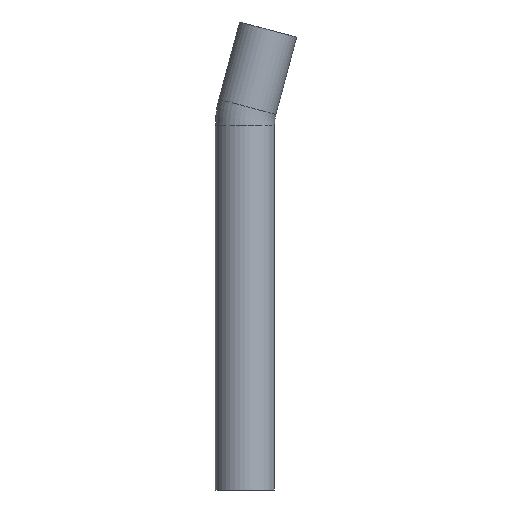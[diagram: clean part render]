
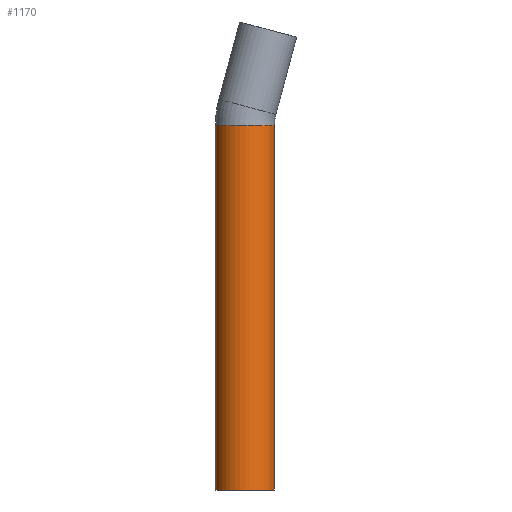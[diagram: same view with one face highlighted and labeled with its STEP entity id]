
A CAD part, front view. The second image highlights one B-rep face of the part: STEP entity #1170.
In plain terms, the highlighted cylindrical face has radius 17.5 mm (diameter 35 mm), a partial arc.
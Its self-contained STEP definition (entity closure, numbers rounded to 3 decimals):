
#210=CARTESIAN_POINT('',(50.717,48.566,0.));
#220=DIRECTION('',(0.,0.,1.));
#230=DIRECTION('',(1.,0.,0.));
#240=AXIS2_PLACEMENT_3D('',#210,#220,#230);
#250=CIRCLE('',#240,17.5);
#260=CARTESIAN_POINT('',(68.217,48.566,0.));
#270=VERTEX_POINT('',#260);
#280=CARTESIAN_POINT('',(33.217,48.566,0.));
#290=VERTEX_POINT('',#280);
#320=EDGE_CURVE('',#290,#270,#250,.T.);
#860=CARTESIAN_POINT('',(50.717,48.566,0.));
#870=DIRECTION('',(0.,0.,1.));
#880=DIRECTION('',(1.,0.,0.));
#890=AXIS2_PLACEMENT_3D('',#860,#870,#880);
#900=CYLINDRICAL_SURFACE('',#890,17.5);
#910=CARTESIAN_POINT('',(68.217,48.566,0.));
#920=DIRECTION('',(0.,0.,1.));
#930=VECTOR('',#920,1.);
#940=LINE('',#910,#930);
#950=CARTESIAN_POINT('',(68.217,48.566,216.471));
#960=VERTEX_POINT('',#950);
#970=EDGE_CURVE('',#270,#960,#940,.T.);
#980=ORIENTED_EDGE('',*,*,#970,.T.);
#990=ORIENTED_EDGE('',*,*,#320,.T.);
#1000=CARTESIAN_POINT('',(33.217,48.566,0.));
#1010=DIRECTION('',(0.,0.,1.));
#1020=VECTOR('',#1010,1.);
#1030=LINE('',#1000,#1020);
#1040=CARTESIAN_POINT('',(33.217,48.566,216.471));
#1050=VERTEX_POINT('',#1040);
#1060=EDGE_CURVE('',#290,#1050,#1030,.T.);
#1070=ORIENTED_EDGE('',*,*,#1060,.F.);
#1080=CARTESIAN_POINT('',(50.717,48.566,216.471));
#1090=DIRECTION('',(0.,0.,1.));
#1100=DIRECTION('',(1.,0.,0.));
#1110=AXIS2_PLACEMENT_3D('',#1080,#1090,#1100);
#1120=CIRCLE('',#1110,17.5);
#1130=EDGE_CURVE('',#1050,#960,#1120,.T.);
#1140=ORIENTED_EDGE('',*,*,#1130,.F.);
#1150=EDGE_LOOP('',(#1140,#1070,#990,#980));
#1160=FACE_OUTER_BOUND('',#1150,.T.);
#1170=ADVANCED_FACE('',(#1160),#900,.T.);
